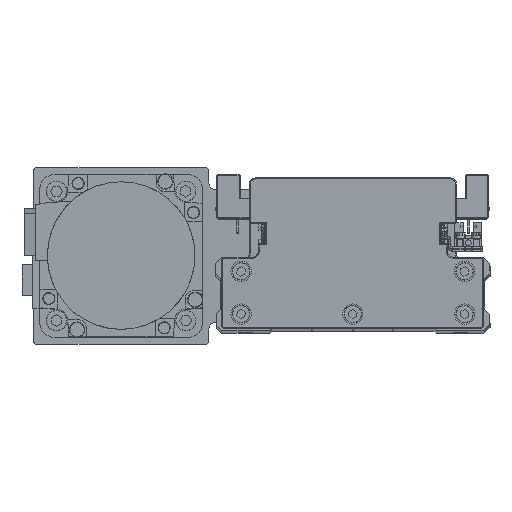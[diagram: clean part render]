
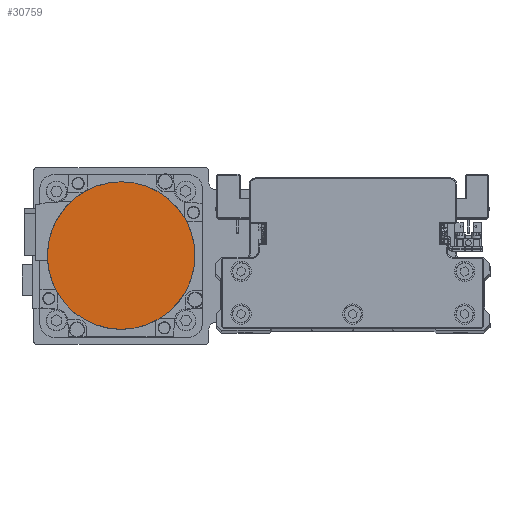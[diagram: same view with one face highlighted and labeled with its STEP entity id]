
A CAD part, top view. The second image highlights one B-rep face of the part: STEP entity #30759.
In plain terms, the highlighted planar face has unit normal (0, 0, 1) as drawn and (0, 0, -1) by its records, which use the part's own axes.
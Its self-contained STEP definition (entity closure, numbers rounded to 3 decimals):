
#720 = EDGE_LOOP ( 'NONE', ( #18751, #35418 ) ) ;
#2246 = CARTESIAN_POINT ( 'NONE',  ( 0., 0., -122.2 ) ) ;
#3276 = AXIS2_PLACEMENT_3D ( 'NONE', #2246, #14580, #26926 ) ;
#5034 = CARTESIAN_POINT ( 'NONE',  ( 0., -36.3, -122.2 ) ) ;
#7123 = AXIS2_PLACEMENT_3D ( 'NONE', #36909, #9172, #21535 ) ;
#7552 = CARTESIAN_POINT ( 'NONE',  ( 0., 0., -122.2 ) ) ;
#8734 = CARTESIAN_POINT ( 'NONE',  ( 0., 36.3, -122.2 ) ) ;
#9172 = DIRECTION ( 'NONE',  ( 0., 0., 1. ) ) ;
#9625 = EDGE_CURVE ( 'NONE', #38209, #19890, #24581, .T. ) ;
#14580 = DIRECTION ( 'NONE',  ( 0., 0., 1. ) ) ;
#17618 = FACE_OUTER_BOUND ( 'NONE', #720, .T. ) ;
#18751 = ORIENTED_EDGE ( 'NONE', *, *, #35550, .F. ) ;
#19890 = VERTEX_POINT ( 'NONE', #8734 ) ;
#19901 = DIRECTION ( 'NONE',  ( 0., 0., 1. ) ) ;
#21418 = AXIS2_PLACEMENT_3D ( 'NONE', #7552, #19901, #32249 ) ;
#21535 = DIRECTION ( 'NONE',  ( 0., -1., 0. ) ) ;
#24581 = CIRCLE ( 'NONE', #7123, 36.3 ) ;
#26926 = DIRECTION ( 'NONE',  ( 1., 0., 0. ) ) ;
#29966 = PLANE ( 'NONE',  #3276 ) ;
#30759 = ADVANCED_FACE ( 'NONE', ( #17618 ), #29966, .F. ) ;
#32249 = DIRECTION ( 'NONE',  ( 0., 1., 0. ) ) ;
#35418 = ORIENTED_EDGE ( 'NONE', *, *, #9625, .F. ) ;
#35550 = EDGE_CURVE ( 'NONE', #19890, #38209, #38859, .T. ) ;
#36909 = CARTESIAN_POINT ( 'NONE',  ( 0., 0., -122.2 ) ) ;
#38209 = VERTEX_POINT ( 'NONE', #5034 ) ;
#38859 = CIRCLE ( 'NONE', #21418, 36.3 ) ;
